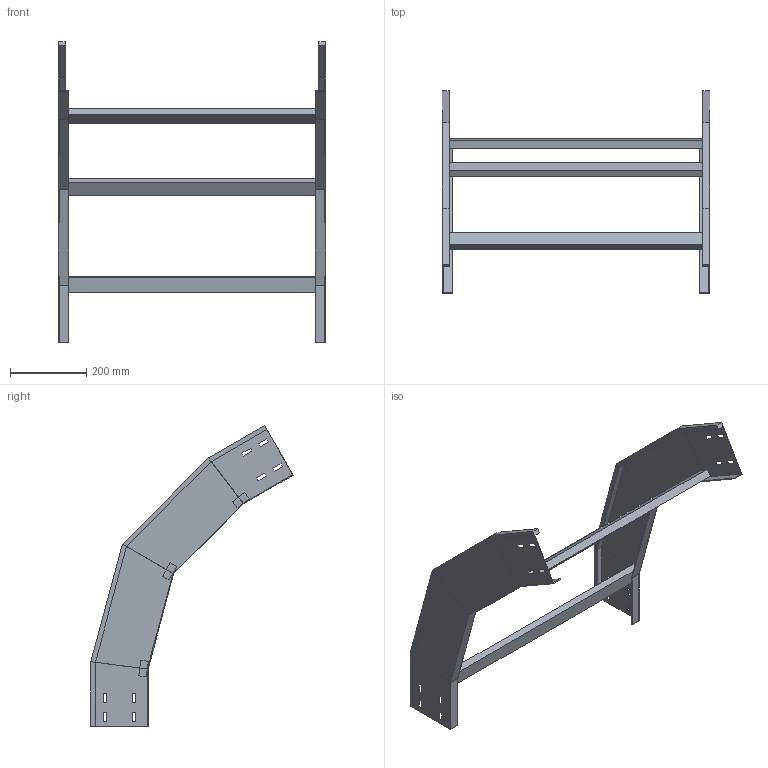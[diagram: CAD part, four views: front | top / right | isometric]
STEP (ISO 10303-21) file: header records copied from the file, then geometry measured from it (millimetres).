
FILE_DESCRIPTION (( 'STEP AP214' ), '1' );
FILE_NAME ('41J5F700.step', '2025-02-21T16:22:46', ( '' ), ( '' ), 'SwSTEP 2.0', 'SolidWorks 2023', '' );
FILE_SCHEMA (( 'AUTOMOTIVE_DESIGN' ));
Length unit declared in the file: millimetre
Products named in the file (3): LONGH.DISCESA_60°_H150_R500; 41J5F700; TRAVERSINO_700
Assembly tree (5 placements, depth 2):
  41J5F700
    LONGH.DISCESA_60°_H150_R500  x2
    TRAVERSINO_700  x3
Bounding box: 700 x 530.08 x 788.22 mm (x, y, z)
Volume: 2677463.6 mm3; surface area: 944496.7 mm2
Topology: 5 solids, 5 shells, 150 faces, 372 edges, 232 vertices
Faces by surface type: plane 150
Entity records: 2216 total; most frequent: CARTESIAN_POINT 372, ORIENTED_EDGE 360, DIRECTION 340, EDGE_CURVE 180, VECTOR 180, LINE 180, VERTEX_POINT 112, EDGE_LOOP 88
